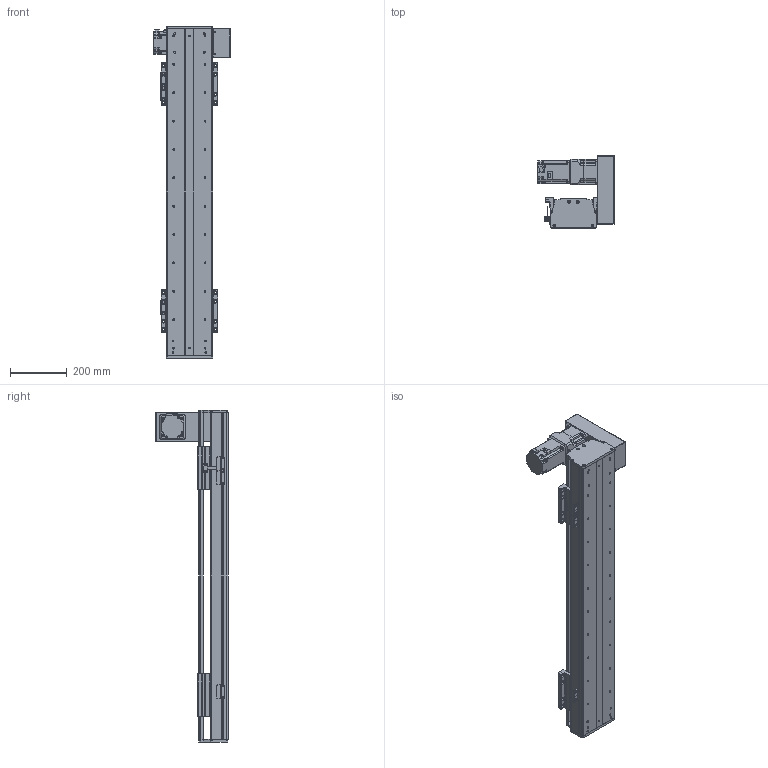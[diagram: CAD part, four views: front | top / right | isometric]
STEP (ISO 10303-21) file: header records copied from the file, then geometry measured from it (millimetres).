
FILE_DESCRIPTION(/* description */ (''),/* implementation_level */ '2;1');
FILE_NAME(/* name */ 'C:\Users\PC\Desktop\3D도면\STEP\새 폴더\DSB165-UR7G-W0800-L.stp',/* time_stamp */ '2018-06-25T15:16:11+09:00',/* author */ ('PC'),/* organization */ (''),/* preprocessor_version */ 'ST-DEVELOPER v16.5',/* originating_system */ 'Autodesk Inventor 2017',/* authorisation */ '');
FILE_SCHEMA (('AUTOMOTIVE_DESIGN { 1 0 10303 214 3 1 1 }'));
Length unit declared in the file: millimetre
Products named in the file (12): DSB165-UL7G-W0800-R_MIR; DSB165-BASE-L_MIR; hg-kr73__MIR; ab0901-p0401300102_MIR; 11-DSB165 BELT COVER_MIR; 12-DSB165-REAR COVER_MIR; 14-DSB165-FRONT COVER_MIR; DSB165-UP COVER_MIR; DSR165-SENSOR DOG_MIR; pm-y65_step_MIR; SENSOR BRACKET(EE-SX674A)_MIR; DSB165-TABLE(MSB20S)_MIR
Assembly tree (16 placements, depth 2):
  DSB165-UL7G-W0800-R_MIR
    DSB165-BASE-L_MIR
    hg-kr73__MIR
    ab0901-p0401300102_MIR
    11-DSB165 BELT COVER_MIR
    12-DSB165-REAR COVER_MIR
    14-DSB165-FRONT COVER_MIR
    DSB165-UP COVER_MIR
    DSR165-SENSOR DOG_MIR
    pm-y65_step_MIR  x3
    SENSOR BRACKET(EE-SX674A)_MIR  x3
    DSB165-TABLE(MSB20S)_MIR  x2
Bounding box: 270 x 254 x 1170 mm (x, y, z)
Volume: 7952813.6 mm3; surface area: 1836013.6 mm2
Topology: 17 solids, 17 shells, 1661 faces, 4464 edges, 2942 vertices
Faces by surface type: plane 921, cylinder 616, cone 112, sphere 8, torus 4
Full cylindrical faces by diameter (mm): 2.459 x20, 3.5 x6, 4.134 x42, 4.5 x18, 5 x27, 5.5 x36, 5.9 x4, 6 x4, 6.6 x14, 6.647 x40, 6.8 x1, 7 x4, 7.6 x4, 8.4 x1, 8.5 x24, 8.7 x1, 9.5 x32, 11 x6, 14 x16, 19 x1, 22 x1, 24 x1, 25 x1, 28 x1, 67 x1, 70 x2, 80 x1
Entity records: 36004 total; most frequent: DIRECTION 6234, CARTESIAN_POINT 6051, ORIENTED_EDGE 5522, EDGE_CURVE 2761, AXIS2_PLACEMENT_3D 2287, VERTEX_POINT 1966, EDGE_LOOP 1719, LINE 1660
